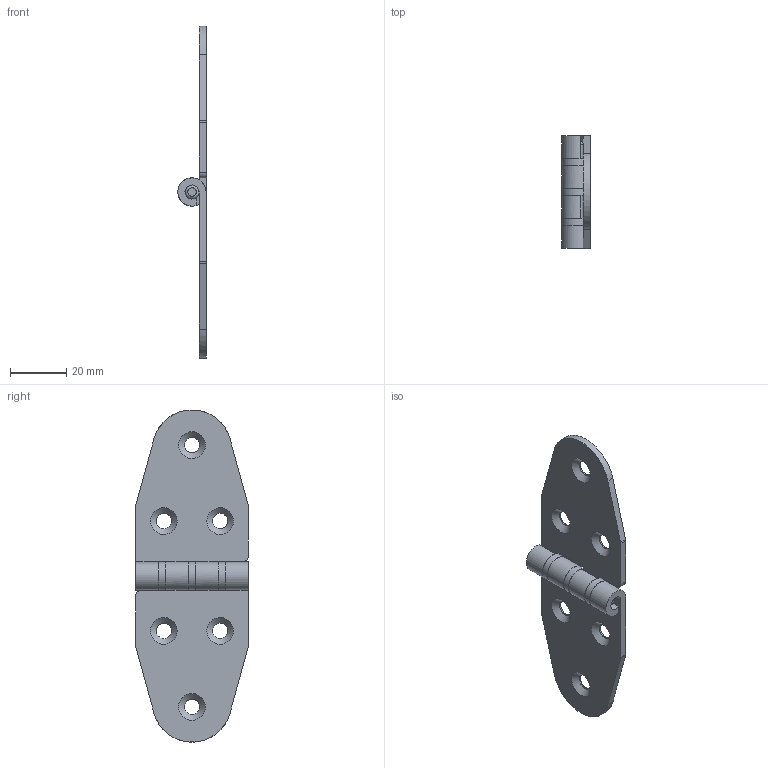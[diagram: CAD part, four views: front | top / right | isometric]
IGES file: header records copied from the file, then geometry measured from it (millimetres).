
Global section: file name: DR_HG40118-25; native system: Autodesk Inventor 2015; preprocessor: unknown; author: user; date: 20200917.143308; units: millimetre
Bounding box: 10 x 40 x 117.95 mm (x, y, z)
Volume: 11495.1 mm3; surface area: 11270.6 mm2
Topology: 6 solids, 6 shells, 71 faces, 185 edges, 126 vertices
Faces by surface type: bspline 71
